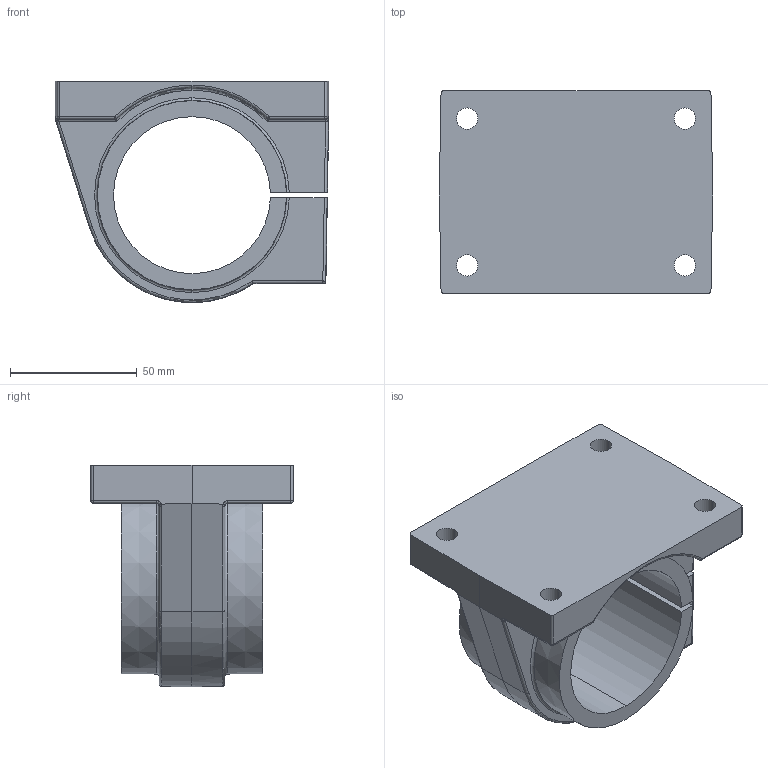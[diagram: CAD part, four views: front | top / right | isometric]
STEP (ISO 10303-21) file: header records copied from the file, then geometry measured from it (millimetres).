
FILE_DESCRIPTION (( 'STEP AP203' ), '1' );
FILE_NAME ('KGGE66-40.step', '2020-03-10T15:16:37', ( '' ), ( '' ), 'SwSTEP 2.0', 'SolidWorks 2019', '' );
FILE_SCHEMA (( 'CONFIG_CONTROL_DESIGN' ));
Length unit declared in the file: millimetre
Products named in the file (2): KGGE66-40
Bounding box: 107.98 x 80 x 87.5 mm (x, y, z)
Volume: 223896 mm3; surface area: 53928 mm2
Topology: 1 solids, 1 shells, 145 faces, 353 edges, 207 vertices
Faces by surface type: cylinder 64, plane 32, torus 16, bspline 12, cone 11, sphere 10
Entity records: 4719 total; most frequent: CARTESIAN_POINT 1252, DIRECTION 721, ORIENTED_EDGE 690, EDGE_CURVE 345, AXIS2_PLACEMENT_3D 292, VERTEX_POINT 207, EDGE_LOOP 160, CIRCLE 157
